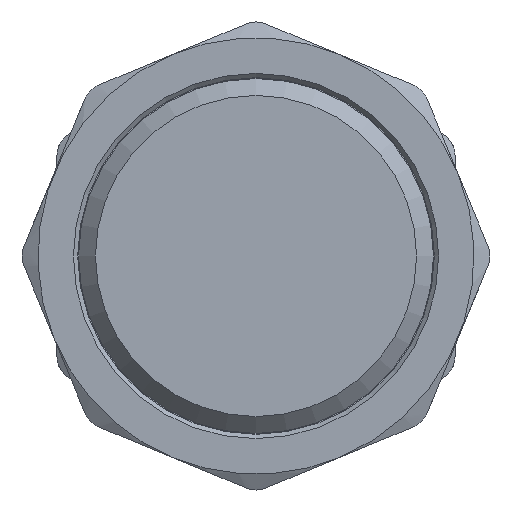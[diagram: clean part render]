
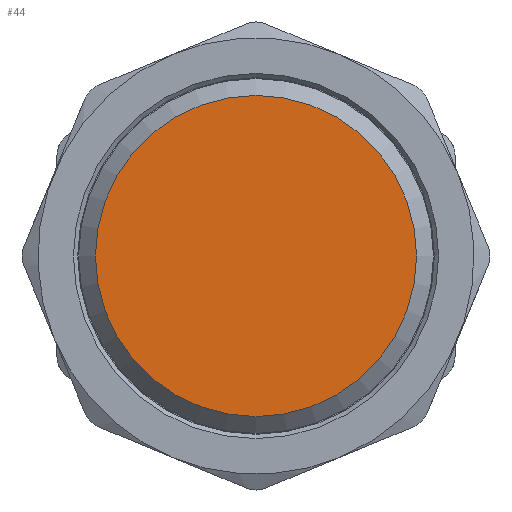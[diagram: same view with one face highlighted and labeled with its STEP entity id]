
A CAD part, front view. The second image highlights one B-rep face of the part: STEP entity #44.
In plain terms, the highlighted planar face has unit normal (0, -1, 0).
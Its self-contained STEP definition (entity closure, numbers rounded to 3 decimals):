
#44=ADVANCED_FACE('',(#108),#110,.F.);
#108=FACE_BOUND('',#109,.T.);
#109=EDGE_LOOP('',(#574));
#110=PLANE('',#111);
#111=AXIS2_PLACEMENT_3D('',#112,#113,#114);
#112=CARTESIAN_POINT('',(0.,0.,0.));
#113=DIRECTION('',(0.,1.,0.));
#114=DIRECTION('',(-1.,0.,0.));
#574=ORIENTED_EDGE('',*,*,#888,.T.);
#888=EDGE_CURVE('',#1045,#1045,#1046,.F.);
#1045=VERTEX_POINT('',#1307);
#1046=CIRCLE('',#1308,18.955);
#1307=CARTESIAN_POINT('',(0.,0.,18.955));
#1308=AXIS2_PLACEMENT_3D('',#1309,#1310,#1311);
#1309=CARTESIAN_POINT('',(0.,0.,0.));
#1310=DIRECTION('',(0.,1.,0.));
#1311=DIRECTION('',(0.,0.,1.));
